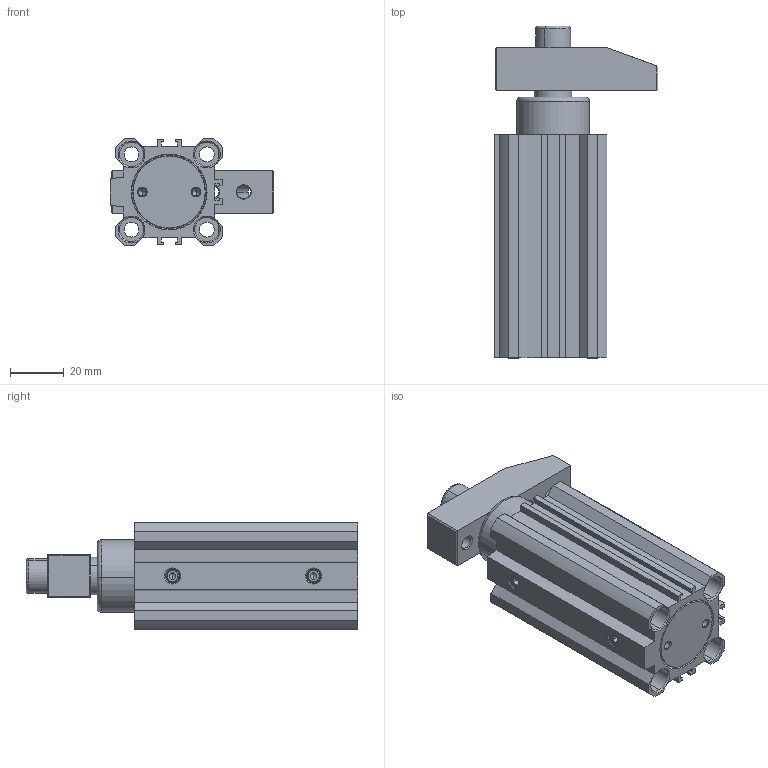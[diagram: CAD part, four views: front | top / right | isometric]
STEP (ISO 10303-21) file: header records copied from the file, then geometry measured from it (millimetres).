
FILE_DESCRIPTION(('FreeCAD Model'),'2;1');
FILE_NAME('Open CASCADE Shape Model','2021-08-17T16:14:13',('Author'),( ''),'Open CASCADE STEP processor 7.4','FreeCAD','Unknown');
FILE_SCHEMA(('AUTOMOTIVE_DESIGN { 1 0 10303 214 1 1 1 1 }'));
Length unit declared in the file: millimetre
Products named in the file (11): PSP-L-25.STEP; SOLID001; SOLID002; SOLID003; SOLID004; SOLID005; SOLID006; SOLID007; SOLID008; SOLID009; SOLID011
Assembly tree (11 placements, depth 2):
  PSP-L-25.STEP
    SOLID001
    SOLID002
    SOLID003
    SOLID004
    SOLID005
    SOLID006
    SOLID007
    SOLID008
    SOLID009  x2
    SOLID011
Bounding box: 61.01 x 123.5 x 40 mm (x, y, z)
Volume: 107740.4 mm3; surface area: 65026.6 mm2
Topology: 11 solids, 12 shells, 904 faces, 2005 edges, 1162 vertices
Faces by surface type: cone 311, cylinder 285, plane 181, torus 102, bspline 25
Entity records: 60777 total; most frequent: CARTESIAN_POINT 22772, DIRECTION 7411, LINE 3893, VECTOR 3893, ORIENTED_EDGE 3686, PCURVE 3686, DEFINITIONAL_REPRESENTATION 3686, EDGE_CURVE 1843
